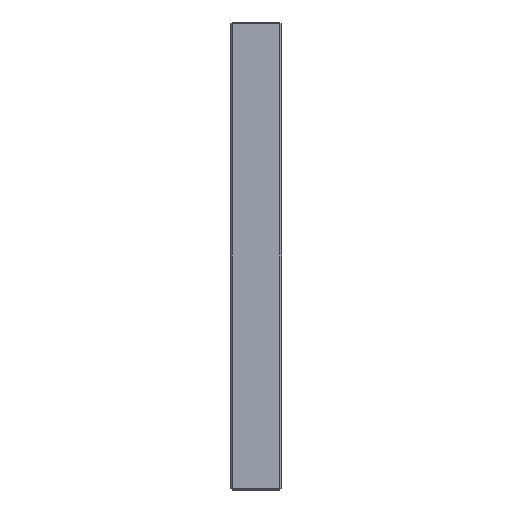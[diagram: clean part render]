
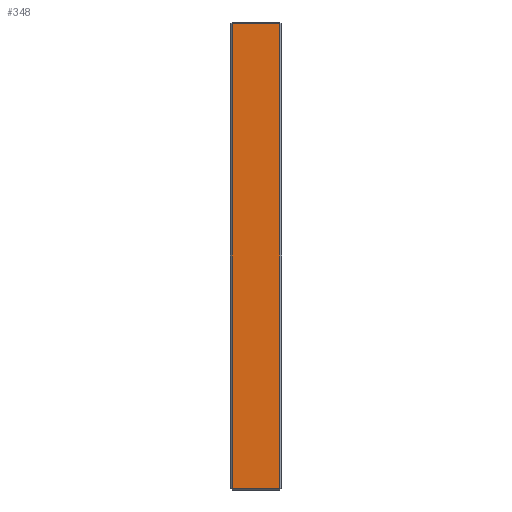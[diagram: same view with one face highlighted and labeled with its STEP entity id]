
A CAD part, left-side view. The second image highlights one B-rep face of the part: STEP entity #348.
In plain terms, the highlighted planar face has unit normal (-1, 0, 0).
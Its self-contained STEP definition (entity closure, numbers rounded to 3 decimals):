
#35 = DIRECTION ( 'NONE',  ( 0., 0., -1. ) ) ;
#69 = AXIS2_PLACEMENT_3D ( 'NONE', #765, #1723, #804 ) ;
#70 = VERTEX_POINT ( 'NONE', #1153 ) ;
#74 = CARTESIAN_POINT ( 'NONE',  ( -123., 26., -123. ) ) ;
#234 = ORIENTED_EDGE ( 'NONE', *, *, #242, .T. ) ;
#242 = EDGE_CURVE ( 'NONE', #1506, #1347, #987, .T. ) ;
#279 = ORIENTED_EDGE ( 'NONE', *, *, #1189, .T. ) ;
#320 = EDGE_LOOP ( 'NONE', ( #618, #368, #279, #234 ) ) ;
#348 = ADVANCED_FACE ( 'NONE', ( #555 ), #1238, .F. ) ;
#368 = ORIENTED_EDGE ( 'NONE', *, *, #1117, .T. ) ;
#462 = LINE ( 'NONE', #778, #1288 ) ;
#512 = VERTEX_POINT ( 'NONE', #1519 ) ;
#555 = FACE_OUTER_BOUND ( 'NONE', #320, .T. ) ;
#616 = CARTESIAN_POINT ( 'NONE',  ( -123., 1., 123. ) ) ;
#618 = ORIENTED_EDGE ( 'NONE', *, *, #1865, .T. ) ;
#625 = DIRECTION ( 'NONE',  ( 0., 0., 1. ) ) ;
#643 = DIRECTION ( 'NONE',  ( 0., 1., 0. ) ) ;
#765 = CARTESIAN_POINT ( 'NONE',  ( -123., 27., 123. ) ) ;
#768 = LINE ( 'NONE', #1918, #1893 ) ;
#778 = CARTESIAN_POINT ( 'NONE',  ( -123., 27., 122. ) ) ;
#804 = DIRECTION ( 'NONE',  ( 0., 0., -1. ) ) ;
#987 = LINE ( 'NONE', #74, #1272 ) ;
#1060 = LINE ( 'NONE', #616, #1521 ) ;
#1117 = EDGE_CURVE ( 'NONE', #70, #512, #1060, .T. ) ;
#1150 = CARTESIAN_POINT ( 'NONE',  ( -123., 26., 122. ) ) ;
#1153 = CARTESIAN_POINT ( 'NONE',  ( -123., 1., -122. ) ) ;
#1177 = CARTESIAN_POINT ( 'NONE',  ( -123., 26., -122. ) ) ;
#1189 = EDGE_CURVE ( 'NONE', #512, #1506, #462, .T. ) ;
#1238 = PLANE ( 'NONE',  #69 ) ;
#1272 = VECTOR ( 'NONE', #35, 1000. ) ;
#1288 = VECTOR ( 'NONE', #643, 1000. ) ;
#1347 = VERTEX_POINT ( 'NONE', #1177 ) ;
#1506 = VERTEX_POINT ( 'NONE', #1150 ) ;
#1519 = CARTESIAN_POINT ( 'NONE',  ( -123., 1., 122. ) ) ;
#1521 = VECTOR ( 'NONE', #625, 1000. ) ;
#1659 = DIRECTION ( 'NONE',  ( 0., -1., 0. ) ) ;
#1723 = DIRECTION ( 'NONE',  ( 1., 0., 0. ) ) ;
#1865 = EDGE_CURVE ( 'NONE', #1347, #70, #768, .T. ) ;
#1893 = VECTOR ( 'NONE', #1659, 1000. ) ;
#1918 = CARTESIAN_POINT ( 'NONE',  ( -123., 27., -122. ) ) ;
